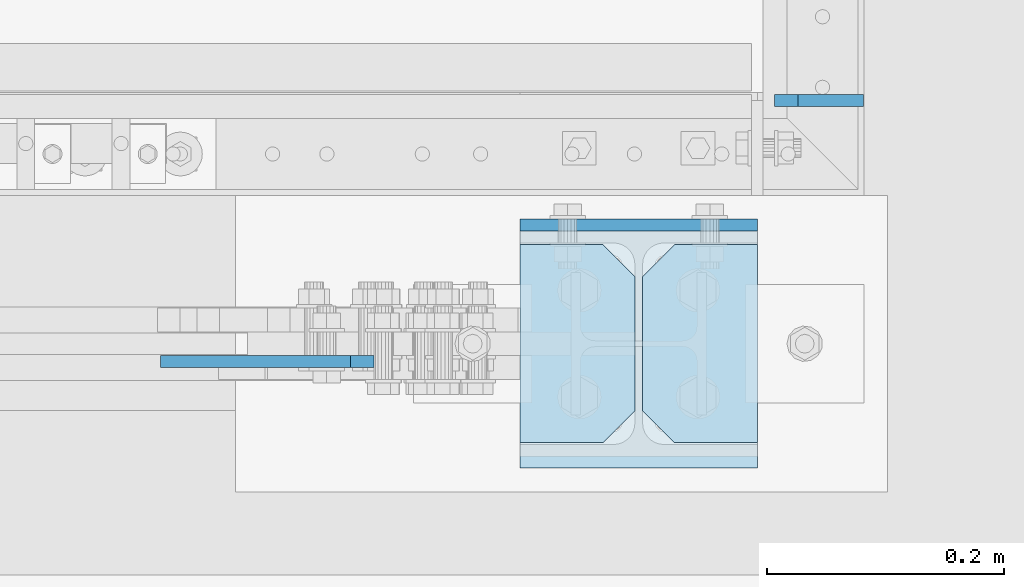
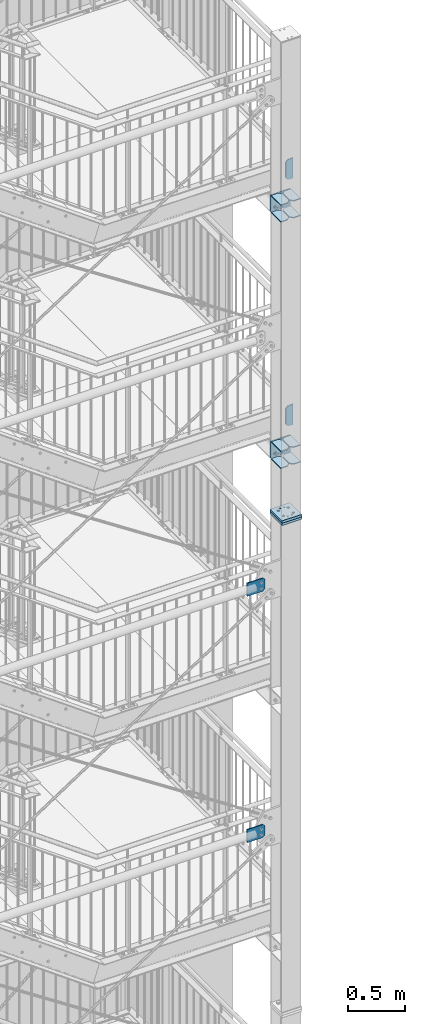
# One storey, part 201 of 831: 16 plates, 60 openings.
"""IFC2X3 building model written with IfcOpenShell, lengths in millimetres."""

from ifc_helpers import new_model, entity, si_unit, converted_unit, frame, frame_2d, origin, origin_with_axes, origin_2d_with_axis, place, context, project, spatial, polyline, circle, outline, extrude, material, layer, layer_set, element, save


model = new_model("IFC2X3")

# Units and contexts
model_context = context("Model", 3, precision=1e-09, world=origin_with_axes())
ifc_project = project(units=[si_unit("LENGTHUNIT", "METRE", prefix="MILLI"), si_unit("AREAUNIT", "SQUARE_METRE"), si_unit("VOLUMEUNIT", "CUBIC_METRE"), converted_unit("PLANEANGLEUNIT", "DEGREE", entity("IfcPlaneAngleMeasure", 0.01745329), si_unit("PLANEANGLEUNIT", "RADIAN"), dimensions=[0, 0, 0, 0, 0, 0, 0])], contexts=[model_context])

# Site, building, storey
site_placement = place(None, origin_with_axes())
site = spatial("IfcSite", under=ifc_project, at=site_placement, Name="Site", CompositionType="ELEMENT")
building_placement = place(site_placement, origin_with_axes())
building = spatial("IfcBuilding", under=site, at=building_placement, Name="Struktur 1", CompositionType="ELEMENT")
storey_placement = place(building_placement, origin_with_axes())
storey = spatial("IfcBuildingStorey", under=building, at=storey_placement, Name="Default Storey", CompositionType="ELEMENT", Elevation=0.0)

# Plate, openings
ifc_material = material(Name="S235JR")
ifc_layer_1 = layer(ifc_material, 10.0)
ifc_layer_set_1 = layer_set([ifc_layer_1], Name="S235JR")
plate_1_placement = place(None, frame((8553.463402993, 4356.736971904, 9616.999996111), z_axis=(0.0, -1.0, 0.0), x_axis=(1.0, 0.0, 0.0)))
plate_1 = element("IfcPlate", 1, at=plate_1_placement, inside=storey, material=ifc_layer_set_1, Name="-", ObjectType="-", context=model_context, shape_type="SweptSolid", body=[
    extrude(outline(polyline([(-90.0, -70.0), (90.0, -70.0), (90.0, 70.0), (-90.0, 70.0), (-90.0, -70.0)])), origin_with_axes(), (0.0, 0.0, 1.0), 10.0),
])
opening_1_placement = place(plate_1_placement, frame((0.0, 0.0, -0.01), z_axis=(0.0, 0.0, 1.0), x_axis=(1.0, 0.0, 0.0)))
element("IfcOpeningElement", 2, at=opening_1_placement, cuts=plate_1, ObjectType="Opening", context=model_context, shape_type="SweptSolid", body=[
    extrude(outline(polyline([(90.0, -70.0), (90.0, -50.0), (70.0, -70.0), (90.0, -70.0)])), origin(), (0.0, 0.0, 1.0), 10.02),
])
opening_2_placement = place(plate_1_placement, frame((0.0, 0.0, -0.01), z_axis=(0.0, 0.0, 1.0), x_axis=(1.0, 0.0, 0.0)))
element("IfcOpeningElement", 3, at=opening_2_placement, cuts=plate_1, ObjectType="Opening", context=model_context, shape_type="SweptSolid", body=[
    extrude(outline(polyline([(90.0, 70.0), (70.0, 70.0), (90.0, 50.0), (90.0, 70.0)])), origin(), (0.0, 0.0, 1.0), 10.02),
])
opening_3_placement = place(plate_1_placement, frame((50.0, 0.0, -0.5), z_axis=(0.0, 0.0, 1.0), x_axis=(1.0, 0.0, 0.0)))
element("IfcOpeningElement", 4, at=opening_3_placement, cuts=plate_1, ObjectType="Opening", context=model_context, shape_type="SweptSolid", body=[
    extrude(circle(Radius=9.001, at=frame_2d((0.0, 30.0), x_axis=(1.0, 0.0))), origin(), (0.0, 0.0, 1.0), 11.0),
])
opening_4_placement = place(plate_1_placement, frame((50.0, 0.0, -0.5), z_axis=(0.0, 0.0, 1.0), x_axis=(1.0, 0.0, 0.0)))
element("IfcOpeningElement", 5, at=opening_4_placement, cuts=plate_1, ObjectType="Opening", context=model_context, shape_type="SweptSolid", body=[
    extrude(circle(Radius=9.001, at=frame_2d((0.0, -30.0), x_axis=(1.0, 0.0))), origin(), (0.0, 0.0, 1.0), 11.0),
])

plate_2_placement = place(None, frame((8553.463402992, 4356.736971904, 12243.999996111), z_axis=(0.0, -1.0, 0.0), x_axis=(1.0, 0.0, 0.0)))
plate_2 = element("IfcPlate", 6, at=plate_2_placement, inside=storey, material=ifc_layer_set_1, Name="-", ObjectType="-", context=model_context, shape_type="SweptSolid", body=[
    extrude(outline(polyline([(-90.0, -70.0), (90.0, -70.0), (90.0, 70.0), (-90.0, 70.0), (-90.0, -70.0)])), origin_with_axes(), (0.0, 0.0, 1.0), 10.0),
])
opening_5_placement = place(plate_2_placement, frame((0.0, 0.0, -0.01), z_axis=(0.0, 0.0, 1.0), x_axis=(1.0, 0.0, 0.0)))
element("IfcOpeningElement", 7, at=opening_5_placement, cuts=plate_2, ObjectType="Opening", context=model_context, shape_type="SweptSolid", body=[
    extrude(outline(polyline([(90.0, -70.0), (90.0, -50.0), (70.0, -70.0), (90.0, -70.0)])), origin(), (0.0, 0.0, 1.0), 10.02),
])
opening_6_placement = place(plate_2_placement, frame((0.0, 0.0, -0.01), z_axis=(0.0, 0.0, 1.0), x_axis=(1.0, 0.0, 0.0)))
element("IfcOpeningElement", 8, at=opening_6_placement, cuts=plate_2, ObjectType="Opening", context=model_context, shape_type="SweptSolid", body=[
    extrude(outline(polyline([(90.0, 70.0), (70.0, 70.0), (90.0, 50.0), (90.0, 70.0)])), origin(), (0.0, 0.0, 1.0), 10.02),
])
opening_7_placement = place(plate_2_placement, frame((50.0, 0.0, -0.5), z_axis=(0.0, 0.0, 1.0), x_axis=(1.0, 0.0, 0.0)))
element("IfcOpeningElement", 9, at=opening_7_placement, cuts=plate_2, ObjectType="Opening", context=model_context, shape_type="SweptSolid", body=[
    extrude(circle(Radius=9.001, at=frame_2d((0.0, 30.0), x_axis=(1.0, 0.0))), origin(), (0.0, 0.0, 1.0), 11.0),
])
opening_8_placement = place(plate_2_placement, frame((50.0, 0.0, -0.5), z_axis=(0.0, 0.0, 1.0), x_axis=(1.0, 0.0, 0.0)))
element("IfcOpeningElement", 10, at=opening_8_placement, cuts=plate_2, ObjectType="Opening", context=model_context, shape_type="SweptSolid", body=[
    extrude(circle(Radius=9.001, at=frame_2d((0.0, -30.0), x_axis=(1.0, 0.0))), origin(), (0.0, 0.0, 1.0), 11.0),
])

ifc_layer_2 = layer(ifc_material, 25.0)
ifc_layer_set_2 = layer_set([ifc_layer_2], Name="S235JR")
plate_3_placement = place(None, frame((8866.713402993, 4366.736971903, 12900.0), z_axis=(0.0, 0.0, -1.0), x_axis=(0.0, -1.0, 0.0)))
plate_3 = element("IfcPlate", 11, at=plate_3_placement, inside=storey, material=ifc_layer_set_2, Name="Endplate#1", ObjectType="Endplate#1", context=model_context, shape_type="SweptSolid", body=[
    extrude(outline(polyline([(-105.0, -100.0), (105.0, -100.0), (105.0, 100.0), (-105.0, 100.0), (-105.0, -100.0)])), origin_with_axes(), (0.0, 0.0, 1.0), 25.0),
])
opening_9_placement = place(plate_3_placement, frame((67.0, 21.25, -0.5), z_axis=(0.0, 0.0, 1.0), x_axis=(1.0, 0.0, 0.0)))
element("IfcOpeningElement", 12, at=opening_9_placement, cuts=plate_3, ObjectType="Opening", context=model_context, shape_type="SweptSolid", body=[
    extrude(circle(Radius=7.001, at=origin_2d_with_axis()), origin(), (0.0, 0.0, 1.0), 26.0),
])
opening_10_placement = place(plate_3_placement, frame((-67.0, 21.25, -0.5), z_axis=(0.0, 0.0, 1.0), x_axis=(1.0, 0.0, 0.0)))
element("IfcOpeningElement", 13, at=opening_10_placement, cuts=plate_3, ObjectType="Opening", context=model_context, shape_type="SweptSolid", body=[
    extrude(circle(Radius=7.001, at=origin_2d_with_axis()), origin(), (0.0, 0.0, 1.0), 26.0),
])
opening_11_placement = place(plate_3_placement, frame((-67.0, -21.25, -0.5), z_axis=(0.0, 0.0, 1.0), x_axis=(1.0, 0.0, 0.0)))
element("IfcOpeningElement", 14, at=opening_11_placement, cuts=plate_3, ObjectType="Opening", context=model_context, shape_type="SweptSolid", body=[
    extrude(circle(Radius=7.001, at=origin_2d_with_axis()), origin(), (0.0, 0.0, 1.0), 26.0),
])
opening_12_placement = place(plate_3_placement, frame((67.0, -21.25, -0.5), z_axis=(0.0, 0.0, 1.0), x_axis=(1.0, 0.0, 0.0)))
element("IfcOpeningElement", 15, at=opening_12_placement, cuts=plate_3, ObjectType="Opening", context=model_context, shape_type="SweptSolid", body=[
    extrude(circle(Radius=7.001, at=origin_2d_with_axis()), origin(), (0.0, 0.0, 1.0), 26.0),
])
opening_13_placement = place(plate_3_placement, frame((45.0, -38.999, 25.5), z_axis=(0.0, 0.0, 1.0), x_axis=(1.0, 0.0, 0.0)))
element("IfcOpeningElement", 16, at=opening_13_placement, cuts=plate_3, ObjectType="Opening", context=model_context, shape_type="SweptSolid", body=[
    extrude(circle(Radius=11.001, at=frame_2d((0.0, -11.001), x_axis=(1.0, 0.0))), origin(), (0.0, 0.0, -1.0), 26.0),
])
opening_14_placement = place(plate_3_placement, frame((-45.0, -38.999, 25.5), z_axis=(0.0, 0.0, 1.0), x_axis=(1.0, 0.0, 0.0)))
element("IfcOpeningElement", 17, at=opening_14_placement, cuts=plate_3, ObjectType="Opening", context=model_context, shape_type="SweptSolid", body=[
    extrude(circle(Radius=11.001, at=frame_2d((0.0, -11.001), x_axis=(1.0, 0.0))), origin(), (0.0, 0.0, -1.0), 26.0),
])
opening_15_placement = place(plate_3_placement, frame((45.0, 61.001, 25.5), z_axis=(0.0, 0.0, 1.0), x_axis=(1.0, 0.0, 0.0)))
element("IfcOpeningElement", 18, at=opening_15_placement, cuts=plate_3, ObjectType="Opening", context=model_context, shape_type="SweptSolid", body=[
    extrude(circle(Radius=11.001, at=frame_2d((0.0, -11.001), x_axis=(1.0, 0.0))), origin(), (0.0, 0.0, -1.0), 26.0),
])
opening_16_placement = place(plate_3_placement, frame((-45.0, 61.001, 25.5), z_axis=(0.0, 0.0, 1.0), x_axis=(1.0, 0.0, 0.0)))
element("IfcOpeningElement", 19, at=opening_16_placement, cuts=plate_3, ObjectType="Opening", context=model_context, shape_type="SweptSolid", body=[
    extrude(circle(Radius=11.001, at=frame_2d((0.0, -11.001), x_axis=(1.0, 0.0))), origin(), (0.0, 0.0, -1.0), 26.0),
])

plate_4_placement = place(None, frame((8866.713402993, 4366.736971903, 12925.0), z_axis=(0.0, 0.0, -1.0), x_axis=(0.0, -1.0, 0.0)))
plate_4 = element("IfcPlate", 20, at=plate_4_placement, inside=storey, material=ifc_layer_set_2, Name="Endplate#2", ObjectType="Endplate#2", context=model_context, shape_type="SweptSolid", body=[
    extrude(outline(polyline([(-105.0, -100.0), (105.0, -100.0), (105.0, 100.0), (-105.0, 100.0), (-105.0, -100.0)])), origin_with_axes(), (0.0, 0.0, 1.0), 25.0),
])
opening_17_placement = place(plate_4_placement, frame((67.0, 21.25, 25.5), z_axis=(0.0, 0.0, -1.0), x_axis=(-1.0, 0.0, 0.0)))
element("IfcOpeningElement", 21, at=opening_17_placement, cuts=plate_4, ObjectType="Opening", context=model_context, shape_type="SweptSolid", body=[
    extrude(circle(Radius=7.001, at=origin_2d_with_axis()), origin(), (0.0, 0.0, 1.0), 26.0),
])
opening_18_placement = place(plate_4_placement, frame((-67.0, 21.25, 25.5), z_axis=(0.0, 0.0, -1.0), x_axis=(-1.0, 0.0, 0.0)))
element("IfcOpeningElement", 22, at=opening_18_placement, cuts=plate_4, ObjectType="Opening", context=model_context, shape_type="SweptSolid", body=[
    extrude(circle(Radius=7.001, at=origin_2d_with_axis()), origin(), (0.0, 0.0, 1.0), 26.0),
])
opening_19_placement = place(plate_4_placement, frame((-67.0, -21.25, 25.5), z_axis=(0.0, 0.0, -1.0), x_axis=(-1.0, 0.0, 0.0)))
element("IfcOpeningElement", 23, at=opening_19_placement, cuts=plate_4, ObjectType="Opening", context=model_context, shape_type="SweptSolid", body=[
    extrude(circle(Radius=7.001, at=origin_2d_with_axis()), origin(), (0.0, 0.0, 1.0), 26.0),
])
opening_20_placement = place(plate_4_placement, frame((67.0, -21.25, 25.5), z_axis=(0.0, 0.0, -1.0), x_axis=(-1.0, 0.0, 0.0)))
element("IfcOpeningElement", 24, at=opening_20_placement, cuts=plate_4, ObjectType="Opening", context=model_context, shape_type="SweptSolid", body=[
    extrude(circle(Radius=7.001, at=origin_2d_with_axis()), origin(), (0.0, 0.0, 1.0), 26.0),
])
opening_21_placement = place(plate_4_placement, frame((45.0, -38.999, 25.5), z_axis=(0.0, 0.0, 1.0), x_axis=(1.0, 0.0, 0.0)))
element("IfcOpeningElement", 25, at=opening_21_placement, cuts=plate_4, ObjectType="Opening", context=model_context, shape_type="SweptSolid", body=[
    extrude(circle(Radius=11.001, at=frame_2d((0.0, -11.001), x_axis=(1.0, 0.0))), origin(), (0.0, 0.0, -1.0), 26.0),
])
opening_22_placement = place(plate_4_placement, frame((-45.0, -38.999, 25.5), z_axis=(0.0, 0.0, 1.0), x_axis=(1.0, 0.0, 0.0)))
element("IfcOpeningElement", 26, at=opening_22_placement, cuts=plate_4, ObjectType="Opening", context=model_context, shape_type="SweptSolid", body=[
    extrude(circle(Radius=11.001, at=frame_2d((0.0, -11.001), x_axis=(1.0, 0.0))), origin(), (0.0, 0.0, -1.0), 26.0),
])
opening_23_placement = place(plate_4_placement, frame((45.0, 61.001, 25.5), z_axis=(0.0, 0.0, 1.0), x_axis=(1.0, 0.0, 0.0)))
element("IfcOpeningElement", 27, at=opening_23_placement, cuts=plate_4, ObjectType="Opening", context=model_context, shape_type="SweptSolid", body=[
    extrude(circle(Radius=11.001, at=frame_2d((0.0, -11.001), x_axis=(1.0, 0.0))), origin(), (0.0, 0.0, -1.0), 26.0),
])
opening_24_placement = place(plate_4_placement, frame((-45.0, 61.001, 25.5), z_axis=(0.0, 0.0, 1.0), x_axis=(1.0, 0.0, 0.0)))
element("IfcOpeningElement", 28, at=opening_24_placement, cuts=plate_4, ObjectType="Opening", context=model_context, shape_type="SweptSolid", body=[
    extrude(circle(Radius=11.001, at=frame_2d((0.0, -11.001), x_axis=(1.0, 0.0))), origin(), (0.0, 0.0, -1.0), 26.0),
])

plate_5_placement = place(None, frame((8866.713402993, 4471.736971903, 16189.0000003), z_axis=(0.0, -1.0, 0.0), x_axis=(0.0, 0.0, -1.0)))
plate_5 = element("IfcPlate", 29, at=plate_5_placement, inside=storey, material=ifc_layer_set_1, Name="Endplate", ObjectType="Endplate", context=model_context, shape_type="SweptSolid", body=[
    extrude(outline(polyline([(-90.0, -100.0), (90.0, -100.0), (90.0, 100.0), (-90.0, 100.0), (-90.0, -100.0)])), origin_with_axes(), (0.0, 0.0, 1.0), 10.0),
])
opening_25_placement = place(plate_5_placement, frame((-67.0, -21.25, 10.5), z_axis=(0.0, 0.0, -1.0), x_axis=(1.0, 0.0, 0.0)))
element("IfcOpeningElement", 30, at=opening_25_placement, cuts=plate_5, ObjectType="Opening", context=model_context, shape_type="SweptSolid", body=[
    extrude(circle(Radius=6.001, at=origin_2d_with_axis()), origin(), (0.0, 0.0, 1.0), 11.0),
])
opening_26_placement = place(plate_5_placement, frame((67.0, -21.25, 10.5), z_axis=(0.0, 0.0, -1.0), x_axis=(1.0, 0.0, 0.0)))
element("IfcOpeningElement", 31, at=opening_26_placement, cuts=plate_5, ObjectType="Opening", context=model_context, shape_type="SweptSolid", body=[
    extrude(circle(Radius=6.001, at=origin_2d_with_axis()), origin(), (0.0, 0.0, 1.0), 11.0),
])
opening_27_placement = place(plate_5_placement, frame((67.0, 21.25, 10.5), z_axis=(0.0, 0.0, -1.0), x_axis=(1.0, 0.0, 0.0)))
element("IfcOpeningElement", 32, at=opening_27_placement, cuts=plate_5, ObjectType="Opening", context=model_context, shape_type="SweptSolid", body=[
    extrude(circle(Radius=6.001, at=origin_2d_with_axis()), origin(), (0.0, 0.0, 1.0), 11.0),
])
opening_28_placement = place(plate_5_placement, frame((-67.0, 21.25, 10.5), z_axis=(0.0, 0.0, -1.0), x_axis=(1.0, 0.0, 0.0)))
element("IfcOpeningElement", 33, at=opening_28_placement, cuts=plate_5, ObjectType="Opening", context=model_context, shape_type="SweptSolid", body=[
    extrude(circle(Radius=6.001, at=origin_2d_with_axis()), origin(), (0.0, 0.0, 1.0), 11.0),
])
opening_29_placement = place(plate_5_placement, frame((-45.0, 60.0, 10.5), z_axis=(0.0, 0.0, -1.0), x_axis=(0.0, 1.0, 0.0)))
element("IfcOpeningElement", 34, at=opening_29_placement, cuts=plate_5, ObjectType="Opening", context=model_context, shape_type="SweptSolid", body=[
    extrude(circle(Radius=9.001, at=origin_2d_with_axis()), origin(), (0.0, 0.0, 1.0), 11.0),
])
opening_30_placement = place(plate_5_placement, frame((-45.0, -60.0, 10.5), z_axis=(0.0, 0.0, -1.0), x_axis=(0.0, -1.0, 0.0)))
element("IfcOpeningElement", 35, at=opening_30_placement, cuts=plate_5, ObjectType="Opening", context=model_context, shape_type="SweptSolid", body=[
    extrude(circle(Radius=9.001, at=origin_2d_with_axis()), origin(), (0.0, 0.0, 1.0), 11.0),
])
opening_31_placement = place(plate_5_placement, frame((45.0, 60.0, 10.5), z_axis=(0.0, 0.0, -1.0), x_axis=(0.0, 1.0, 0.0)))
element("IfcOpeningElement", 36, at=opening_31_placement, cuts=plate_5, ObjectType="Opening", context=model_context, shape_type="SweptSolid", body=[
    extrude(circle(Radius=9.001, at=origin_2d_with_axis()), origin(), (0.0, 0.0, 1.0), 11.0),
])
opening_32_placement = place(plate_5_placement, frame((45.0, -60.0, 10.5), z_axis=(0.0, 0.0, -1.0), x_axis=(0.0, -1.0, 0.0)))
element("IfcOpeningElement", 37, at=opening_32_placement, cuts=plate_5, ObjectType="Opening", context=model_context, shape_type="SweptSolid", body=[
    extrude(circle(Radius=9.001, at=origin_2d_with_axis()), origin(), (0.0, 0.0, 1.0), 11.0),
])

plate_6_placement = place(None, frame((8863.463402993, 4450.236971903, 16274.0000003), z_axis=(0.0, 0.0, 1.0), x_axis=(-1.0, 0.0, 0.0)))
plate_6 = element("IfcPlate", 38, at=plate_6_placement, inside=storey, material=ifc_layer_set_1, Name="Stiffener#1", ObjectType="Stiffener#1", context=model_context, shape_type="SweptSolid", body=[
    extrude(outline(polyline([(0.0, 0.0), (96.75, 0.0), (96.75, 167.0), (0.0, 167.0), (0.0, 0.0)])), origin_with_axes(), (0.0, 0.0, 1.0), 10.0),
])
opening_33_placement = place(plate_6_placement, frame((0.0, 0.0, -0.01), z_axis=(0.0, 0.0, 1.0), x_axis=(1.0, 0.0, 0.0)))
element("IfcOpeningElement", 39, at=opening_33_placement, cuts=plate_6, ObjectType="Opening", context=model_context, shape_type="SweptSolid", body=[
    extrude(outline(polyline([(0.0, 167.0), (0.0, 140.0), (27.0, 167.0), (0.0, 167.0)])), origin(), (0.0, 0.0, 1.0), 10.02),
])
opening_34_placement = place(plate_6_placement, frame((0.0, 0.0, -0.01), z_axis=(0.0, 0.0, 1.0), x_axis=(1.0, 0.0, 0.0)))
element("IfcOpeningElement", 40, at=opening_34_placement, cuts=plate_6, ObjectType="Opening", context=model_context, shape_type="SweptSolid", body=[
    extrude(outline(polyline([(0.0, 0.0), (27.0, 0.0), (0.0, 27.0), (0.0, 0.0)])), origin(), (0.0, 0.0, 1.0), 10.02),
])

plate_7_placement = place(None, frame((8966.713402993, 4450.236971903, 16274.0000003), z_axis=(0.0, 0.0, 1.0), x_axis=(-1.0, 0.0, 0.0)))
plate_7 = element("IfcPlate", 41, at=plate_7_placement, inside=storey, material=ifc_layer_set_1, Name="Stiffener#2", ObjectType="Stiffener#2", context=model_context, shape_type="SweptSolid", body=[
    extrude(outline(polyline([(0.0, 0.0), (96.75, 0.0), (96.75, 167.0), (0.0, 167.0), (0.0, 0.0)])), origin_with_axes(), (0.0, 0.0, 1.0), 10.0),
])
opening_35_placement = place(plate_7_placement, frame((0.0, 0.0, -0.01), z_axis=(0.0, 0.0, 1.0), x_axis=(1.0, 0.0, 0.0)))
element("IfcOpeningElement", 42, at=opening_35_placement, cuts=plate_7, ObjectType="Opening", context=model_context, shape_type="SweptSolid", body=[
    extrude(outline(polyline([(96.75, 167.0), (69.75, 167.0), (96.75, 140.0), (96.75, 167.0)])), origin(), (0.0, 0.0, 1.0), 10.02),
])
opening_36_placement = place(plate_7_placement, frame((0.0, 0.0, -0.01), z_axis=(0.0, 0.0, 1.0), x_axis=(1.0, 0.0, 0.0)))
element("IfcOpeningElement", 43, at=opening_36_placement, cuts=plate_7, ObjectType="Opening", context=model_context, shape_type="SweptSolid", body=[
    extrude(outline(polyline([(96.75, 0.0), (96.75, 27.0), (69.75, 0.0), (96.75, 0.0)])), origin(), (0.0, 0.0, 1.0), 10.02),
])

plate_8_placement = place(None, frame((8766.713402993, 4450.236971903, 16104.0000003), z_axis=(0.0, 0.0, -1.0), x_axis=(1.0, 0.0, 0.0)))
plate_8 = element("IfcPlate", 44, at=plate_8_placement, inside=storey, material=ifc_layer_set_1, Name="Stiffener#3", ObjectType="Stiffener#3", context=model_context, shape_type="SweptSolid", body=[
    extrude(outline(polyline([(0.0, 0.0), (96.75, 0.0), (96.75, 167.0), (0.0, 167.0), (0.0, 0.0)])), origin_with_axes(), (0.0, 0.0, 1.0), 10.0),
])
opening_37_placement = place(plate_8_placement, frame((0.0, 0.0, -0.01), z_axis=(0.0, 0.0, 1.0), x_axis=(1.0, 0.0, 0.0)))
element("IfcOpeningElement", 45, at=opening_37_placement, cuts=plate_8, ObjectType="Opening", context=model_context, shape_type="SweptSolid", body=[
    extrude(outline(polyline([(96.75, 167.0), (69.75, 167.0), (96.75, 140.0), (96.75, 167.0)])), origin(), (0.0, 0.0, 1.0), 10.02),
])
opening_38_placement = place(plate_8_placement, frame((0.0, 0.0, -0.01), z_axis=(0.0, 0.0, 1.0), x_axis=(1.0, 0.0, 0.0)))
element("IfcOpeningElement", 46, at=opening_38_placement, cuts=plate_8, ObjectType="Opening", context=model_context, shape_type="SweptSolid", body=[
    extrude(outline(polyline([(96.75, 0.0), (96.75, 27.0), (69.75, 0.0), (96.75, 0.0)])), origin(), (0.0, 0.0, 1.0), 10.02),
])

plate_9_placement = place(None, frame((8869.963402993, 4450.236971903, 16104.0000003), z_axis=(0.0, 0.0, -1.0), x_axis=(1.0, 0.0, 0.0)))
plate_9 = element("IfcPlate", 47, at=plate_9_placement, inside=storey, material=ifc_layer_set_1, Name="Stiffener#4", ObjectType="Stiffener#4", context=model_context, shape_type="SweptSolid", body=[
    extrude(outline(polyline([(0.0, 0.0), (96.75, 0.0), (96.75, 167.0), (0.0, 167.0), (0.0, 0.0)])), origin_with_axes(), (0.0, 0.0, 1.0), 10.0),
])
opening_39_placement = place(plate_9_placement, frame((0.0, 0.0, -0.01), z_axis=(0.0, 0.0, 1.0), x_axis=(1.0, 0.0, 0.0)))
element("IfcOpeningElement", 48, at=opening_39_placement, cuts=plate_9, ObjectType="Opening", context=model_context, shape_type="SweptSolid", body=[
    extrude(outline(polyline([(0.0, 167.0), (0.0, 140.0), (27.0, 167.0), (0.0, 167.0)])), origin(), (0.0, 0.0, 1.0), 10.02),
])
opening_40_placement = place(plate_9_placement, frame((0.0, 0.0, -0.01), z_axis=(0.0, 0.0, 1.0), x_axis=(1.0, 0.0, 0.0)))
element("IfcOpeningElement", 49, at=opening_40_placement, cuts=plate_9, ObjectType="Opening", context=model_context, shape_type="SweptSolid", body=[
    extrude(outline(polyline([(0.0, 0.0), (27.0, 0.0), (0.0, 27.0), (0.0, 0.0)])), origin(), (0.0, 0.0, 1.0), 10.02),
])

plate_10_placement = place(None, frame((8981.213402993, 4566.736971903, 16506.855162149), z_axis=(0.0, 1.0, 0.0), x_axis=(0.996815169, 0.0, 0.079746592)))
plate_10 = element("IfcPlate", 50, at=plate_10_placement, inside=storey, material=ifc_layer_set_1, Name="Stiffener#1", ObjectType="Stiffener#1", context=model_context, shape_type="SweptSolid", body=[
    extrude(outline(polyline([(0.0, 0.0), (75.239625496, 0.0), (57.877952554, 217.017159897), (-16.404697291, 205.05517107), (0.0, 0.0)])), origin_with_axes(), (0.0, 0.0, 1.0), 10.0),
])
opening_41_placement = place(plate_10_placement, frame((0.0, 0.0, -0.01), z_axis=(0.0, 0.0, 1.0), x_axis=(1.0, 0.0, 0.0)))
element("IfcOpeningElement", 51, at=opening_41_placement, cuts=plate_10, ObjectType="Opening", context=model_context, shape_type="SweptSolid", body=[
    extrude(outline(polyline([(-16.404697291, 205.05517107), (-14.809765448, 185.118867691), (3.34092195, 208.23487558), (-16.404697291, 205.05517107)])), origin(), (0.0, 0.0, 1.0), 10.02),
])
opening_42_placement = place(plate_10_placement, frame((0.0, 0.0, -0.01), z_axis=(0.0, 0.0, 1.0), x_axis=(1.0, 0.0, 0.0)))
element("IfcOpeningElement", 52, at=opening_42_placement, cuts=plate_10, ObjectType="Opening", context=model_context, shape_type="SweptSolid", body=[
    extrude(outline(polyline([(0.0, 0.0), (20.0, 0.0), (-1.594931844, 19.936303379), (0.0, 0.0)])), origin(), (0.0, 0.0, 1.0), 10.02),
])

plate_11_placement = place(None, frame((8866.713402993, 4471.736971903, 13561.5000001), z_axis=(0.0, -1.0, 0.0), x_axis=(0.0, 0.0, -1.0)))
plate_11 = element("IfcPlate", 53, at=plate_11_placement, inside=storey, material=ifc_layer_set_1, Name="Endplate", ObjectType="Endplate", context=model_context, shape_type="SweptSolid", body=[
    extrude(outline(polyline([(-90.0, -100.0), (90.0, -100.0), (90.0, 100.0), (-90.0, 100.0), (-90.0, -100.0)])), origin_with_axes(), (0.0, 0.0, 1.0), 10.0),
])
opening_43_placement = place(plate_11_placement, frame((-67.0, -21.25, 10.5), z_axis=(0.0, 0.0, -1.0), x_axis=(1.0, 0.0, 0.0)))
element("IfcOpeningElement", 54, at=opening_43_placement, cuts=plate_11, ObjectType="Opening", context=model_context, shape_type="SweptSolid", body=[
    extrude(circle(Radius=6.001, at=origin_2d_with_axis()), origin(), (0.0, 0.0, 1.0), 11.0),
])
opening_44_placement = place(plate_11_placement, frame((67.0, -21.25, 10.5), z_axis=(0.0, 0.0, -1.0), x_axis=(1.0, 0.0, 0.0)))
element("IfcOpeningElement", 55, at=opening_44_placement, cuts=plate_11, ObjectType="Opening", context=model_context, shape_type="SweptSolid", body=[
    extrude(circle(Radius=6.001, at=origin_2d_with_axis()), origin(), (0.0, 0.0, 1.0), 11.0),
])
opening_45_placement = place(plate_11_placement, frame((67.0, 21.25, 10.5), z_axis=(0.0, 0.0, -1.0), x_axis=(1.0, 0.0, 0.0)))
element("IfcOpeningElement", 56, at=opening_45_placement, cuts=plate_11, ObjectType="Opening", context=model_context, shape_type="SweptSolid", body=[
    extrude(circle(Radius=6.001, at=origin_2d_with_axis()), origin(), (0.0, 0.0, 1.0), 11.0),
])
opening_46_placement = place(plate_11_placement, frame((-67.0, 21.25, 10.5), z_axis=(0.0, 0.0, -1.0), x_axis=(1.0, 0.0, 0.0)))
element("IfcOpeningElement", 57, at=opening_46_placement, cuts=plate_11, ObjectType="Opening", context=model_context, shape_type="SweptSolid", body=[
    extrude(circle(Radius=6.001, at=origin_2d_with_axis()), origin(), (0.0, 0.0, 1.0), 11.0),
])
opening_47_placement = place(plate_11_placement, frame((45.0, -60.0, 10.5), z_axis=(0.0, 0.0, -1.0), x_axis=(0.0, -1.0, 0.0)))
element("IfcOpeningElement", 58, at=opening_47_placement, cuts=plate_11, ObjectType="Opening", context=model_context, shape_type="SweptSolid", body=[
    extrude(circle(Radius=9.001, at=origin_2d_with_axis()), origin(), (0.0, 0.0, 1.0), 11.0),
])
opening_48_placement = place(plate_11_placement, frame((45.0, 60.0, 10.5), z_axis=(0.0, 0.0, -1.0), x_axis=(0.0, 1.0, 0.0)))
element("IfcOpeningElement", 59, at=opening_48_placement, cuts=plate_11, ObjectType="Opening", context=model_context, shape_type="SweptSolid", body=[
    extrude(circle(Radius=9.001, at=origin_2d_with_axis()), origin(), (0.0, 0.0, 1.0), 11.0),
])
opening_49_placement = place(plate_11_placement, frame((-45.0, -60.0, 10.5), z_axis=(0.0, 0.0, -1.0), x_axis=(0.0, -1.0, 0.0)))
element("IfcOpeningElement", 60, at=opening_49_placement, cuts=plate_11, ObjectType="Opening", context=model_context, shape_type="SweptSolid", body=[
    extrude(circle(Radius=9.001, at=origin_2d_with_axis()), origin(), (0.0, 0.0, 1.0), 11.0),
])
opening_50_placement = place(plate_11_placement, frame((-45.0, 60.0, 10.5), z_axis=(0.0, 0.0, -1.0), x_axis=(0.0, 1.0, 0.0)))
element("IfcOpeningElement", 61, at=opening_50_placement, cuts=plate_11, ObjectType="Opening", context=model_context, shape_type="SweptSolid", body=[
    extrude(circle(Radius=9.001, at=origin_2d_with_axis()), origin(), (0.0, 0.0, 1.0), 11.0),
])

plate_12_placement = place(None, frame((8863.463402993, 4450.236971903, 13646.5000001), z_axis=(0.0, 0.0, 1.0), x_axis=(-1.0, 0.0, 0.0)))
plate_12 = element("IfcPlate", 62, at=plate_12_placement, inside=storey, material=ifc_layer_set_1, Name="Stiffener#1", ObjectType="Stiffener#1", context=model_context, shape_type="SweptSolid", body=[
    extrude(outline(polyline([(0.0, 0.0), (96.75, 0.0), (96.75, 167.0), (0.0, 167.0), (0.0, 0.0)])), origin_with_axes(), (0.0, 0.0, 1.0), 10.0),
])
opening_51_placement = place(plate_12_placement, frame((0.0, 0.0, -0.01), z_axis=(0.0, 0.0, 1.0), x_axis=(1.0, 0.0, 0.0)))
element("IfcOpeningElement", 63, at=opening_51_placement, cuts=plate_12, ObjectType="Opening", context=model_context, shape_type="SweptSolid", body=[
    extrude(outline(polyline([(0.0, 167.0), (0.0, 140.0), (27.0, 167.0), (0.0, 167.0)])), origin(), (0.0, 0.0, 1.0), 10.02),
])
opening_52_placement = place(plate_12_placement, frame((0.0, 0.0, -0.01), z_axis=(0.0, 0.0, 1.0), x_axis=(1.0, 0.0, 0.0)))
element("IfcOpeningElement", 64, at=opening_52_placement, cuts=plate_12, ObjectType="Opening", context=model_context, shape_type="SweptSolid", body=[
    extrude(outline(polyline([(0.0, 0.0), (27.0, 0.0), (0.0, 27.0), (0.0, 0.0)])), origin(), (0.0, 0.0, 1.0), 10.02),
])

plate_13_placement = place(None, frame((8966.713402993, 4450.236971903, 13646.5000001), z_axis=(0.0, 0.0, 1.0), x_axis=(-1.0, 0.0, 0.0)))
plate_13 = element("IfcPlate", 65, at=plate_13_placement, inside=storey, material=ifc_layer_set_1, Name="Stiffener#2", ObjectType="Stiffener#2", context=model_context, shape_type="SweptSolid", body=[
    extrude(outline(polyline([(0.0, 0.0), (96.75, 0.0), (96.75, 167.0), (0.0, 167.0), (0.0, 0.0)])), origin_with_axes(), (0.0, 0.0, 1.0), 10.0),
])
opening_53_placement = place(plate_13_placement, frame((0.0, 0.0, -0.01), z_axis=(0.0, 0.0, 1.0), x_axis=(1.0, 0.0, 0.0)))
element("IfcOpeningElement", 66, at=opening_53_placement, cuts=plate_13, ObjectType="Opening", context=model_context, shape_type="SweptSolid", body=[
    extrude(outline(polyline([(96.75, 167.0), (69.75, 167.0), (96.75, 140.0), (96.75, 167.0)])), origin(), (0.0, 0.0, 1.0), 10.02),
])
opening_54_placement = place(plate_13_placement, frame((0.0, 0.0, -0.01), z_axis=(0.0, 0.0, 1.0), x_axis=(1.0, 0.0, 0.0)))
element("IfcOpeningElement", 67, at=opening_54_placement, cuts=plate_13, ObjectType="Opening", context=model_context, shape_type="SweptSolid", body=[
    extrude(outline(polyline([(96.75, 0.0), (96.75, 27.0), (69.75, 0.0), (96.75, 0.0)])), origin(), (0.0, 0.0, 1.0), 10.02),
])

plate_14_placement = place(None, frame((8766.713402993, 4450.236971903, 13476.5000001), z_axis=(0.0, 0.0, -1.0), x_axis=(1.0, 0.0, 0.0)))
plate_14 = element("IfcPlate", 68, at=plate_14_placement, inside=storey, material=ifc_layer_set_1, Name="Stiffener#3", ObjectType="Stiffener#3", context=model_context, shape_type="SweptSolid", body=[
    extrude(outline(polyline([(0.0, 0.0), (96.75, 0.0), (96.75, 167.0), (0.0, 167.0), (0.0, 0.0)])), origin_with_axes(), (0.0, 0.0, 1.0), 10.0),
])
opening_55_placement = place(plate_14_placement, frame((0.0, 0.0, -0.01), z_axis=(0.0, 0.0, 1.0), x_axis=(1.0, 0.0, 0.0)))
element("IfcOpeningElement", 69, at=opening_55_placement, cuts=plate_14, ObjectType="Opening", context=model_context, shape_type="SweptSolid", body=[
    extrude(outline(polyline([(96.75, 167.0), (69.75, 167.0), (96.75, 140.0), (96.75, 167.0)])), origin(), (0.0, 0.0, 1.0), 10.02),
])
opening_56_placement = place(plate_14_placement, frame((0.0, 0.0, -0.01), z_axis=(0.0, 0.0, 1.0), x_axis=(1.0, 0.0, 0.0)))
element("IfcOpeningElement", 70, at=opening_56_placement, cuts=plate_14, ObjectType="Opening", context=model_context, shape_type="SweptSolid", body=[
    extrude(outline(polyline([(96.75, 0.0), (96.75, 27.0), (69.75, 0.0), (96.75, 0.0)])), origin(), (0.0, 0.0, 1.0), 10.02),
])

plate_15_placement = place(None, frame((8869.963402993, 4450.236971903, 13476.5000001), z_axis=(0.0, 0.0, -1.0), x_axis=(1.0, 0.0, 0.0)))
plate_15 = element("IfcPlate", 71, at=plate_15_placement, inside=storey, material=ifc_layer_set_1, Name="Stiffener#4", ObjectType="Stiffener#4", context=model_context, shape_type="SweptSolid", body=[
    extrude(outline(polyline([(0.0, 0.0), (96.75, 0.0), (96.75, 167.0), (0.0, 167.0), (0.0, 0.0)])), origin_with_axes(), (0.0, 0.0, 1.0), 10.0),
])
opening_57_placement = place(plate_15_placement, frame((0.0, 0.0, -0.01), z_axis=(0.0, 0.0, 1.0), x_axis=(1.0, 0.0, 0.0)))
element("IfcOpeningElement", 72, at=opening_57_placement, cuts=plate_15, ObjectType="Opening", context=model_context, shape_type="SweptSolid", body=[
    extrude(outline(polyline([(0.0, 167.0), (0.0, 140.0), (27.0, 167.0), (0.0, 167.0)])), origin(), (0.0, 0.0, 1.0), 10.02),
])
opening_58_placement = place(plate_15_placement, frame((0.0, 0.0, -0.01), z_axis=(0.0, 0.0, 1.0), x_axis=(1.0, 0.0, 0.0)))
element("IfcOpeningElement", 73, at=opening_58_placement, cuts=plate_15, ObjectType="Opening", context=model_context, shape_type="SweptSolid", body=[
    extrude(outline(polyline([(0.0, 0.0), (27.0, 0.0), (0.0, 27.0), (0.0, 0.0)])), origin(), (0.0, 0.0, 1.0), 10.02),
])

plate_16_placement = place(None, frame((8981.213402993, 4566.736971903, 13879.355161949), z_axis=(0.0, 1.0, 0.0), x_axis=(0.996815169, 0.0, 0.079746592)))
plate_16 = element("IfcPlate", 74, at=plate_16_placement, inside=storey, material=ifc_layer_set_1, Name="Stiffener#1", ObjectType="Stiffener#1", context=model_context, shape_type="SweptSolid", body=[
    extrude(outline(polyline([(0.0, 0.0), (75.239625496, 0.0), (57.877952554, 217.017159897), (-16.404697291, 205.05517107), (0.0, 0.0)])), origin_with_axes(), (0.0, 0.0, 1.0), 10.0),
])
opening_59_placement = place(plate_16_placement, frame((0.0, 0.0, -0.01), z_axis=(0.0, 0.0, 1.0), x_axis=(1.0, 0.0, 0.0)))
element("IfcOpeningElement", 75, at=opening_59_placement, cuts=plate_16, ObjectType="Opening", context=model_context, shape_type="SweptSolid", body=[
    extrude(outline(polyline([(-16.404697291, 205.05517107), (-14.809765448, 185.118867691), (3.34092195, 208.23487558), (-16.404697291, 205.05517107)])), origin(), (0.0, 0.0, 1.0), 10.02),
])
opening_60_placement = place(plate_16_placement, frame((0.0, 0.0, -0.01), z_axis=(0.0, 0.0, 1.0), x_axis=(1.0, 0.0, 0.0)))
element("IfcOpeningElement", 76, at=opening_60_placement, cuts=plate_16, ObjectType="Opening", context=model_context, shape_type="SweptSolid", body=[
    extrude(outline(polyline([(0.0, 0.0), (20.0, 0.0), (-1.594931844, 19.936303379), (0.0, 0.0)])), origin(), (0.0, 0.0, 1.0), 10.02),
])

save(model, "model.ifc")
